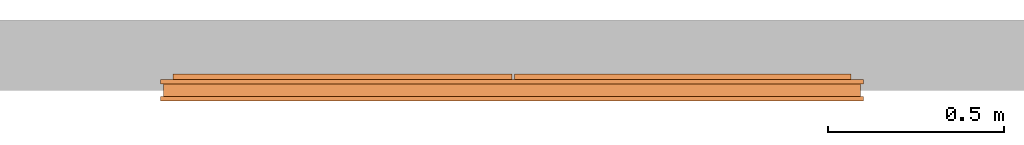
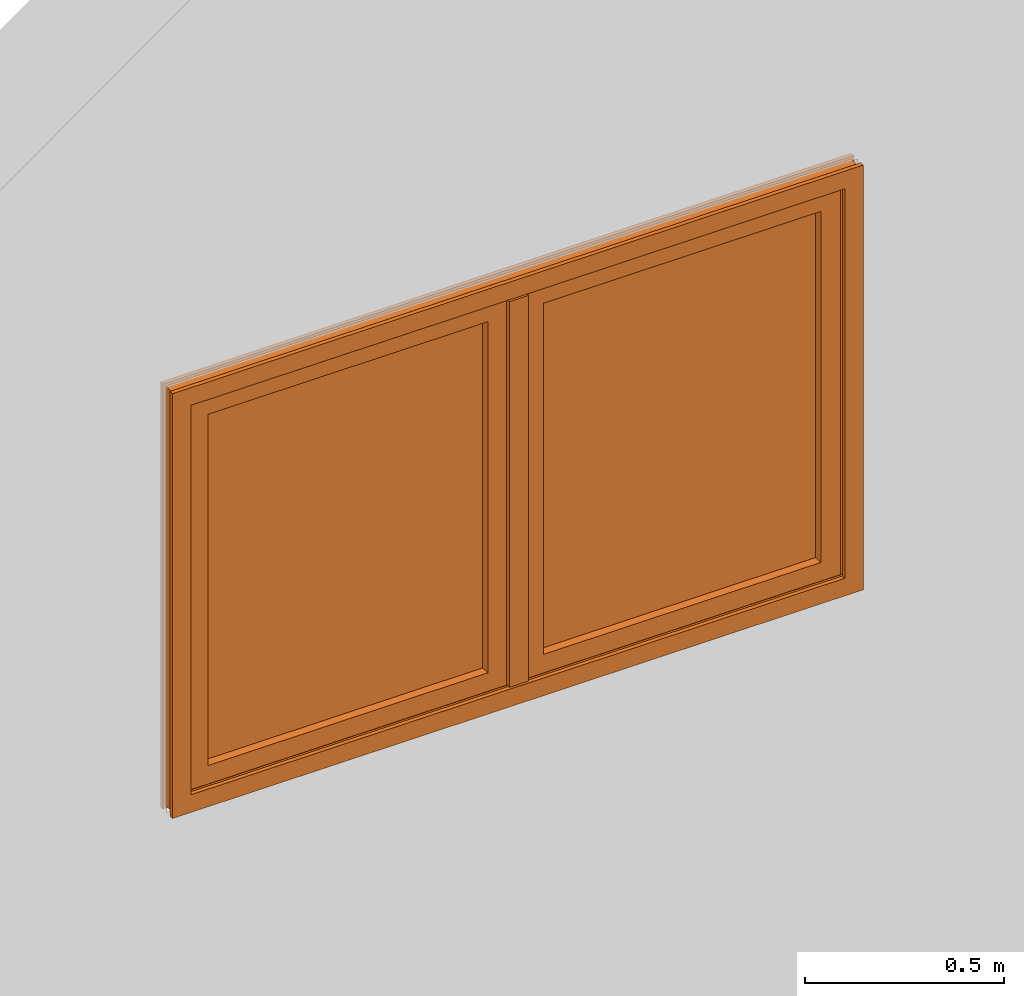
# One storey, part 2 of 2: 1 proxy.
"""IFC2X3 building model written with IfcOpenShell, lengths in millimetres."""

from ifc_helpers import new_model, entity, si_unit, converted_unit, derived_unit, direction, frame, origin, place, context, subcontext, project, spatial, faceted_brep, source, transform, mapped, material, material_list, type_object, type_shapes, element, save


model = new_model("IFC2X3")

# Units and contexts
model_context = context("Model", 3, precision=0.01, world=origin(), true_north=direction((6.12303176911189e-17, 1.0)))
body_context = subcontext(model_context, "Body", "Model", "MODEL_VIEW")
ifc_project = project(units=[si_unit("LENGTHUNIT", "METRE", prefix="MILLI"), si_unit("AREAUNIT", "SQUARE_METRE"), si_unit("VOLUMEUNIT", "CUBIC_METRE"), converted_unit("PLANEANGLEUNIT", "DEGREE", entity("IfcRatioMeasure", 0.0174532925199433), si_unit("PLANEANGLEUNIT", "RADIAN"), dimensions=[0, 0, 0, 0, 0, 0, 0]), si_unit("MASSUNIT", "GRAM", prefix="KILO"), derived_unit("MASSDENSITYUNIT", [(si_unit("MASSUNIT", "GRAM", prefix="KILO"), 1), (si_unit("LENGTHUNIT", "METRE"), -3)]), si_unit("TIMEUNIT", "SECOND"), si_unit("FREQUENCYUNIT", "HERTZ"), si_unit("THERMODYNAMICTEMPERATUREUNIT", "DEGREE_CELSIUS"), derived_unit("THERMALTRANSMITTANCEUNIT", [(si_unit("MASSUNIT", "GRAM", prefix="KILO"), 1), (si_unit("THERMODYNAMICTEMPERATUREUNIT", "KELVIN"), -1), (si_unit("TIMEUNIT", "SECOND"), -3)]), derived_unit("VOLUMETRICFLOWRATEUNIT", [(si_unit("LENGTHUNIT", "METRE"), 3), (si_unit("TIMEUNIT", "SECOND"), -1)]), si_unit("ELECTRICCURRENTUNIT", "AMPERE"), si_unit("ELECTRICVOLTAGEUNIT", "VOLT"), si_unit("POWERUNIT", "WATT"), si_unit("FORCEUNIT", "NEWTON", prefix="KILO"), si_unit("ILLUMINANCEUNIT", "LUX"), si_unit("LUMINOUSFLUXUNIT", "LUMEN"), si_unit("LUMINOUSINTENSITYUNIT", "CANDELA"), derived_unit("USERDEFINED", [(si_unit("MASSUNIT", "GRAM", prefix="KILO"), -1), (si_unit("LENGTHUNIT", "METRE"), -2), (si_unit("TIMEUNIT", "SECOND"), 3), (si_unit("LUMINOUSFLUXUNIT", "LUMEN"), 1)]), derived_unit("LINEARVELOCITYUNIT", [(si_unit("LENGTHUNIT", "METRE"), 1), (si_unit("TIMEUNIT", "SECOND"), -1)]), si_unit("PRESSUREUNIT", "PASCAL"), derived_unit("USERDEFINED", [(si_unit("LENGTHUNIT", "METRE"), -2), (si_unit("MASSUNIT", "GRAM", prefix="KILO"), 1), (si_unit("TIMEUNIT", "SECOND"), -2)])], contexts=[model_context])

# Site, building, storey
site_placement = place(None, origin())
site = spatial("IfcSite", under=ifc_project, at=site_placement, Name="Default", CompositionType="ELEMENT")
building_placement = place(site_placement, origin())
building = spatial("IfcBuilding", under=site, at=building_placement, CompositionType="ELEMENT")
storey_placement = place(building_placement, origin())
storey = spatial("IfcBuildingStorey", under=building, at=storey_placement, Name="Nivel 1", CompositionType="ELEMENT", Elevation=0.0)

# Proxy
ifc_material_1 = material(Name="RAU-PVC")
ifc_material_2 = material(Name="Glass")
ifc_material_list_1 = material_list([ifc_material_1, ifc_material_2])
ifc_material_list_2 = material_list([ifc_material_1, ifc_material_2])
building_element_proxy_type = type_object("IfcBuildingElementProxyType", Name="3.1 REH_ED-60 H Z60", material=ifc_material_list_2)
shared_shape = source(origin(), body_context, "Body", "Brep", [
    faceted_brep([(1946.0, 29.0, 54.0), (1946.0, 17.0, 54.0), (1946.0, 17.0, 1246.0), (1946.0, 29.0, 1246.0), (1972.20185432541, 65.0, 27.798145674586), (1970.0, 29.0, 30.0), (1970.0, 29.0, 1270.0), (1972.20185432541, 65.0, 1272.20185432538), (1946.0, 77.0, 54.0), (1946.0, 65.0, 54.0), (1946.0, 65.0, 1246.0), (1946.0, 77.0, 1246.0), (2000.0, 65.0, 0.0), (2000.0, 77.0, 0.0), (2000.0, 77.0, 1300.0), (2000.0, 65.0, 1300.0), (1992.0, 29.0, 8.0), (1992.0, 65.0, 8.0), (1992.0, 65.0, 1292.0), (1992.0, 29.0, 1292.0), (2000.0, 17.0, 0.0), (2000.0, 29.0, 0.0), (2000.0, 29.0, 1300.0), (2000.0, 17.0, 1300.0), (54.0, 17.0, 1246.0), (54.0, 29.0, 1246.0), (30.0, 29.0, 1270.0), (27.7981456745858, 65.0, 1272.20185432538), (54.0, 65.0, 1246.0), (54.0, 77.0, 1246.0), (0.0, 77.0, 1300.0), (0.0, 65.0, 1300.0), (8.0, 65.0, 1292.0), (8.0, 29.0, 1292.0), (0.0, 29.0, 1300.0), (0.0, 17.0, 1300.0), (54.0, 17.0, 54.0), (54.0, 29.0, 54.0), (30.0, 29.0, 30.0), (27.7981456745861, 65.0, 27.7981456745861), (54.0, 65.0, 54.0), (54.0, 77.0, 54.0), (0.0, 77.0, 0.0), (0.0, 65.0, 0.0), (8.0, 65.0, 8.0), (8.0, 29.0, 8.0), (0.0, 29.0, 0.0), (0.0, 17.0, 0.0)], [[[0, 1, 2, 3]], [[4, 5, 6, 7]], [[8, 9, 10, 11]], [[12, 13, 14, 15]], [[16, 17, 18, 19]], [[20, 21, 22, 23]], [[3, 2, 24, 25]], [[7, 6, 26, 27]], [[11, 10, 28, 29]], [[15, 14, 30, 31]], [[19, 18, 32, 33]], [[23, 22, 34, 35]], [[25, 24, 36, 37]], [[27, 26, 38, 39]], [[29, 28, 40, 41]], [[31, 30, 42, 43]], [[33, 32, 44, 45]], [[35, 34, 46, 47]], [[1, 0, 37, 36]], [[0, 3, 25, 37], [6, 5, 38, 26]], [[5, 4, 39, 38]], [[4, 7, 27, 39], [10, 9, 40, 28]], [[9, 8, 41, 40]], [[8, 11, 29, 41], [14, 13, 42, 30]], [[13, 12, 43, 42]], [[12, 15, 31, 43], [18, 17, 44, 32]], [[17, 16, 45, 44]], [[16, 19, 33, 45], [22, 21, 46, 34]], [[21, 20, 47, 46]], [[2, 1, 36, 24], [20, 23, 35, 47]]], outer=[[True], [True], [True], [True], [True], [True], [True], [True], [True], [True], [True], [True], [True], [True], [True], [True], [True], [True], [True], [False, True], [True], [True, False], [True], [False, True], [True], [True, False], [True], [False, True], [True], [False, True]]),
    faceted_brep([(1024.0, 60.0, 1240.0), (1024.0, 76.9689840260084, 1240.0), (969.554593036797, 76.9689840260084, 1240.0), (969.554593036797, 60.0, 1240.0), (1024.0, 60.0, 60.0), (969.554593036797, 60.0, 60.0), (969.554593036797, 76.9689840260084, 60.0), (1024.0, 76.9689840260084, 60.0)], [[[0, 1, 2, 3]], [[4, 5, 6, 7]], [[1, 0, 4, 7]], [[2, 1, 7, 6]], [[3, 2, 6, 5]], [[0, 3, 5, 4]]]),
    faceted_brep([(1019.99931476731, 17.0, 1244.00068523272), (1019.99931476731, 60.0, 1244.00068523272), (1019.99931476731, 60.0, 55.9993147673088), (1019.99931476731, 17.0, 55.9993147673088), (1076.64994986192, 60.0, 1187.35005013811), (1081.74098451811, 41.0, 1182.25901548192), (1081.74098451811, 41.0, 117.740984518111), (1076.64994986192, 60.0, 112.649949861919), (1059.96931476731, 41.0, 1204.03068523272), (1059.96931476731, 22.0, 1204.03068523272), (1059.96931476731, 22.0, 95.9693147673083), (1059.96931476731, 41.0, 95.9693147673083), (1078.67499044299, 22.0, 1185.32500955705), (1072.72904449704, 0.0, 1191.27095550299), (1072.72904449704, 0.0, 108.729044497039), (1078.67499044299, 22.0, 114.674990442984), (999.999314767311, 0.0, 1264.00068523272), (999.999314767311, 17.0, 1264.00068523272), (999.999314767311, 17.0, 35.9993147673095), (999.999314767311, 0.0, 35.9993147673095), (1944.0006852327, 60.0, 55.9993147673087), (1944.0006852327, 17.0, 55.9993147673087), (1882.2590154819, 41.0, 117.740984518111), (1887.35005013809, 60.0, 112.649949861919), (1904.0306852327, 22.0, 95.9693147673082), (1904.0306852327, 41.0, 95.9693147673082), (1891.27095550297, 0.0, 108.729044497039), (1885.32500955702, 22.0, 114.674990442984), (1964.0006852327, 17.0, 35.9993147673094), (1964.0006852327, 0.0, 35.9993147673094), (1944.0006852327, 60.0, 1244.00068523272), (1944.0006852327, 17.0, 1244.00068523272), (1882.25901548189, 41.0, 1182.25901548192), (1887.35005013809, 60.0, 1187.35005013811), (1904.0306852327, 22.0, 1204.03068523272), (1904.0306852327, 41.0, 1204.03068523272), (1891.27095550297, 0.0, 1191.27095550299), (1885.32500955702, 22.0, 1185.32500955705), (1964.0006852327, 17.0, 1264.00068523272), (1964.0006852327, 0.0, 1264.00068523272)], [[[0, 1, 2, 3]], [[4, 5, 6, 7]], [[8, 9, 10, 11]], [[12, 13, 14, 15]], [[16, 17, 18, 19]], [[3, 2, 20, 21]], [[7, 6, 22, 23]], [[11, 10, 24, 25]], [[15, 14, 26, 27]], [[19, 18, 28, 29]], [[21, 20, 30, 31]], [[23, 22, 32, 33]], [[25, 24, 34, 35]], [[27, 26, 36, 37]], [[29, 28, 38, 39]], [[3, 21, 31, 0], [17, 38, 28, 18]], [[31, 30, 1, 0]], [[7, 23, 33, 4], [1, 30, 20, 2]], [[33, 32, 5, 4]], [[11, 25, 35, 8], [5, 32, 22, 6]], [[35, 34, 9, 8]], [[15, 27, 37, 12], [9, 34, 24, 10]], [[37, 36, 13, 12]], [[19, 29, 39, 16], [13, 36, 26, 14]], [[39, 38, 17, 16]]], outer=[[True], [True], [True], [True], [True], [True], [True], [True], [True], [True], [True], [True], [True], [True], [True], [False, True], [True], [False, True], [True], [True, False], [True], [False, True], [True], [True, False], [True]]),
    faceted_brep([(973.55527826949, 60.0, 1244.00068523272), (973.55527826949, 17.0, 1244.00068523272), (973.55527826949, 17.0, 55.9993147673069), (973.55527826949, 60.0, 55.999314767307), (911.813608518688, 41.0, 1182.25901548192), (916.90464317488, 60.0, 1187.35005013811), (916.90464317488, 60.0, 112.649949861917), (911.813608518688, 41.0, 117.740984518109), (933.58527826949, 22.0, 1204.03068523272), (933.58527826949, 41.0, 1204.03068523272), (933.58527826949, 41.0, 95.9693147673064), (933.58527826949, 22.0, 95.9693147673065), (920.825548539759, 0.0, 1191.27095550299), (914.879602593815, 22.0, 1185.32500955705), (914.879602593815, 22.0, 114.674990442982), (920.825548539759, 0.0, 108.729044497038), (993.555278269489, 17.0, 1264.00068523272), (993.555278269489, 0.0, 1264.00068523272), (993.555278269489, 0.0, 35.9993147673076), (993.555278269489, 17.0, 35.9993147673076), (55.9993147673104, 17.0, 55.9993147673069), (55.9993147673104, 60.0, 55.9993147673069), (112.649949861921, 60.0, 112.649949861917), (117.740984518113, 41.0, 117.740984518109), (95.9693147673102, 41.0, 95.9693147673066), (95.9693147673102, 22.0, 95.9693147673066), (114.674990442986, 22.0, 114.674990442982), (108.729044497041, 0.0, 108.729044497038), (35.9993147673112, 0.0, 35.9993147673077), (35.9993147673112, 17.0, 35.9993147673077), (55.9993147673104, 17.0, 1244.00068523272), (55.9993147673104, 60.0, 1244.00068523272), (112.649949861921, 60.0, 1187.35005013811), (117.740984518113, 41.0, 1182.25901548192), (95.9693147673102, 41.0, 1204.03068523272), (95.9693147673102, 22.0, 1204.03068523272), (114.674990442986, 22.0, 1185.32500955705), (108.729044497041, 0.0, 1191.27095550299), (35.9993147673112, 0.0, 1264.00068523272), (35.9993147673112, 17.0, 1264.00068523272)], [[[0, 1, 2, 3]], [[4, 5, 6, 7]], [[8, 9, 10, 11]], [[12, 13, 14, 15]], [[16, 17, 18, 19]], [[3, 2, 20, 21]], [[7, 6, 22, 23]], [[11, 10, 24, 25]], [[15, 14, 26, 27]], [[19, 18, 28, 29]], [[21, 20, 30, 31]], [[23, 22, 32, 33]], [[25, 24, 34, 35]], [[27, 26, 36, 37]], [[29, 28, 38, 39]], [[19, 29, 39, 16], [1, 30, 20, 2]], [[31, 30, 1, 0]], [[3, 21, 31, 0], [5, 32, 22, 6]], [[33, 32, 5, 4]], [[7, 23, 33, 4], [9, 34, 24, 10]], [[35, 34, 9, 8]], [[11, 25, 35, 8], [13, 36, 26, 14]], [[37, 36, 13, 12]], [[15, 27, 37, 12], [17, 38, 28, 18]], [[39, 38, 17, 16]]], outer=[[True], [True], [True], [True], [True], [True], [True], [True], [True], [True], [True], [True], [True], [True], [True], [True, False], [True], [True, False], [True], [False, True], [True], [True, False], [True], [False, True], [True]]),
    faceted_brep([(60.0, 32.0, 1240.0), (969.554593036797, 32.0, 1240.0), (969.554593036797, 32.0, 60.0), (60.0, 32.0, 60.0), (60.0, 17.0, 1240.0), (60.0, 17.0, 60.0), (969.554593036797, 17.0, 60.0), (969.554593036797, 17.0, 1240.0)], [[[0, 1, 2, 3]], [[4, 5, 6, 7]], [[4, 7, 1, 0]], [[7, 6, 2, 1]], [[6, 5, 3, 2]], [[5, 4, 0, 3]]]),
    faceted_brep([(1024.0, 17.0, 1240.0), (1940.0, 17.0, 1240.0), (1940.0, 32.0, 1240.0), (1024.0, 32.0, 1240.0), (1024.0, 17.0, 60.0), (1024.0, 32.0, 60.0), (1940.0, 17.0, 60.0), (1940.0, 32.0, 60.0)], [[[0, 1, 2, 3]], [[4, 0, 3, 5]], [[6, 4, 5, 7]], [[1, 6, 7, 2]], [[1, 0, 4, 6]], [[2, 7, 5, 3]]]),
])
type_shapes(building_element_proxy_type, [shared_shape])
proxy_placement = place(storey_placement, frame((172.658089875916, 456.829542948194, 2238.77992740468), z_axis=(0.0, 0.0, 1.0), x_axis=(-1.0, 0.0, 0.0)))
element("IfcBuildingElementProxy", 1, at=proxy_placement, inside=storey, type_object=building_element_proxy_type, material=ifc_material_list_1, Name="3.1 REH_ED-60 H Z60 :3.1 REH_ED-60 H Z60", ObjectType="3.1 REH_ED-60 H Z60", context=body_context, shape_type="MappedRepresentation", body=[
    mapped(shared_shape, transform((0.0, 0.0, 0.0), scale=1.0)),
])

save(model, "model.ifc")
